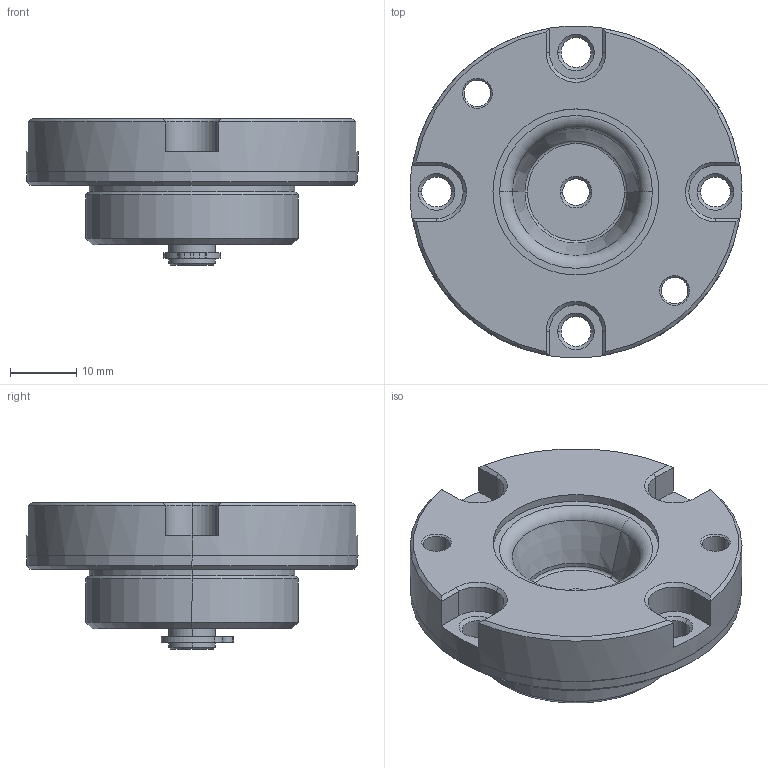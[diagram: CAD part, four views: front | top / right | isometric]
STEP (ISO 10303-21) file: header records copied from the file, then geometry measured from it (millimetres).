
FILE_DESCRIPTION (( 'STEP AP203' ), '1' );
FILE_NAME ('cp725-25050.STEP', '2021-10-25T23:38:47', ( '' ), ( '' ), 'SwSTEP 2.0', 'SolidWorks 2020', '' );
FILE_SCHEMA (( 'CONFIG_CONTROL_DESIGN' ));
Length unit declared in the file: millimetre
Products named in the file (1): cp725-25050
Bounding box: 50 x 50 x 22.1 mm (x, y, z)
Volume: 20181.8 mm3; surface area: 9780.3 mm2
Topology: 1 solids, 2 shells, 166 faces, 374 edges, 225 vertices
Faces by surface type: cylinder 59, cone 49, plane 42, torus 16
Entity records: 4760 total; most frequent: DIRECTION 907, CARTESIAN_POINT 790, ORIENTED_EDGE 748, EDGE_CURVE 374, AXIS2_PLACEMENT_3D 374, VERTEX_POINT 225, CIRCLE 207, EDGE_LOOP 197
